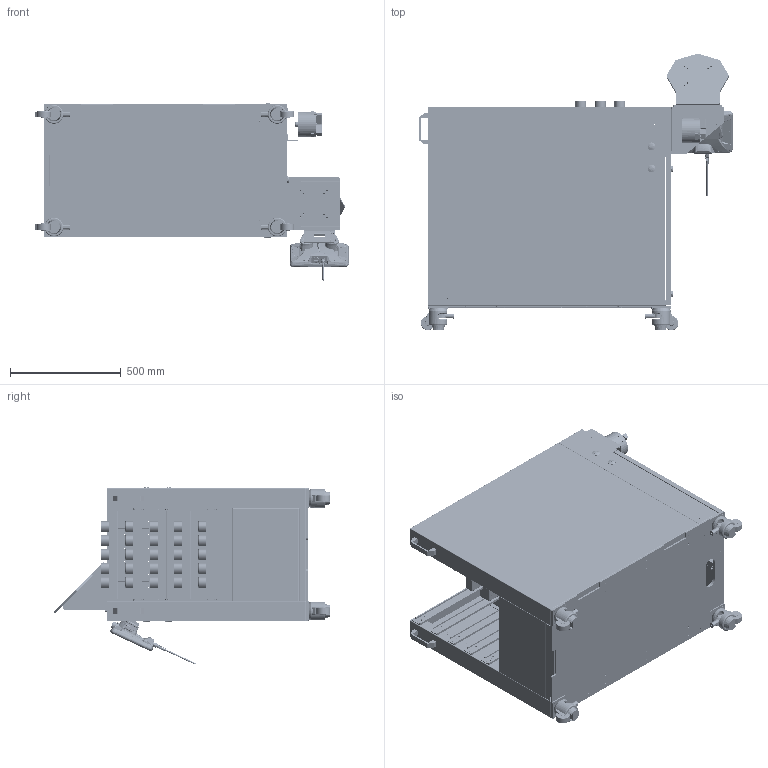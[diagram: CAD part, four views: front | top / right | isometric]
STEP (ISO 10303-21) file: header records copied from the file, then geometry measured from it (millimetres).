
FILE_DESCRIPTION (( 'STEP AP203' ), '1' );
FILE_NAME ('CNC演示工作站-横向模式V1.0-20251020.STEP', '2026-05-11T05:34:09', ( '' ), ( '' ), 'SwSTEP 2.0', 'SolidWorks 2018', '' );
FILE_SCHEMA (( 'CONFIG_CONTROL_DESIGN' ));
Products named in the file (2): CNC演示工作站-横向模式V1.0-20251020
Bounding box: 1419.05 x 1251 x 802.73 mm (x, y, z)
Surface area: 23266436.1 mm2 (no closed solid volume)
Topology: 0 solids, 255 shells, 15394 faces, 39898 edges, 25362 vertices
Faces by surface type: cylinder 8095, plane 4145, cone 1082, bspline 1078, torus 976, sphere 18
Entity records: 619240 total; most frequent: CARTESIAN_POINT 239975, ORIENTED_EDGE 79376, DIRECTION 76470, EDGE_CURVE 39787, AXIS2_PLACEMENT_3D 31597, VERTEX_POINT 25354, EDGE_LOOP 21558, CIRCLE 17285
